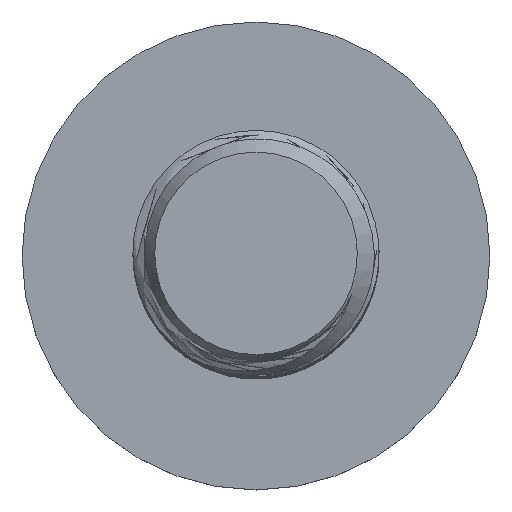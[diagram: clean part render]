
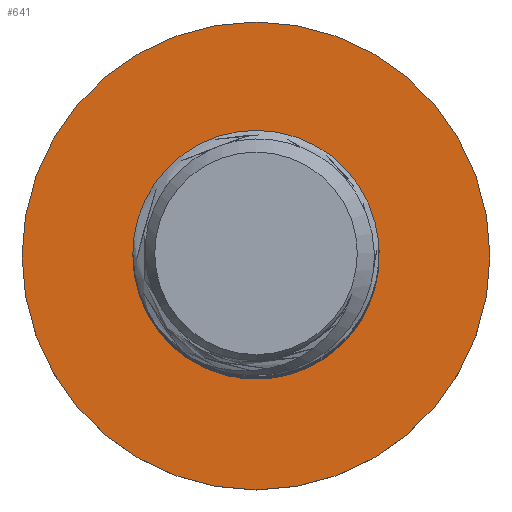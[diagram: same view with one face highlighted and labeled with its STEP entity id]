
A CAD part, top view. The second image highlights one B-rep face of the part: STEP entity #641.
In plain terms, the highlighted planar face has unit normal (0, 0, 1).
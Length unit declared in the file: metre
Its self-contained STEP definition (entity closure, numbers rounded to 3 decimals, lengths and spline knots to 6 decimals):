
#149=PLANE('',#674);
#281=ORIENTED_EDGE('',*,*,#432,.T.);
#282=ORIENTED_EDGE('',*,*,#472,.T.);
#283=ORIENTED_EDGE('',*,*,#471,.F.);
#432=EDGE_CURVE('',#494,#490,#574,.T.);
#471=EDGE_CURVE('',#570,#570,#575,.T.);
#472=EDGE_CURVE('',#490,#494,#576,.T.);
#490=VERTEX_POINT('',#797);
#494=VERTEX_POINT('',#2233);
#570=VERTEX_POINT('',#4189);
#574=CIRCLE('',#670,0.0025);
#575=CIRCLE('',#673,0.00475);
#576=CIRCLE('',#675,0.0025);
#596=EDGE_LOOP('',(#281,#282));
#597=EDGE_LOOP('',(#283));
#619=FACE_BOUND('',#596,.T.);
#620=FACE_BOUND('',#597,.T.);
#641=ADVANCED_FACE('',(#619,#620),#149,.F.);
#670=AXIS2_PLACEMENT_3D('',#2756,#729,#730);
#673=AXIS2_PLACEMENT_3D('',#4188,#735,#736);
#674=AXIS2_PLACEMENT_3D('',#4190,#737,#738);
#675=AXIS2_PLACEMENT_3D('',#4191,#739,#740);
#729=DIRECTION('',(0.,0.,-1.));
#730=DIRECTION('',(1.,0.,0.));
#735=DIRECTION('',(0.,0.,-1.));
#736=DIRECTION('',(1.,0.,0.));
#737=DIRECTION('',(0.,0.,-1.));
#738=DIRECTION('',(0.,-1.,0.));
#739=DIRECTION('',(0.,0.,-1.));
#740=DIRECTION('',(1.,0.,0.));
#797=CARTESIAN_POINT('',(-0.008298,-0.024952,-0.241597));
#2233=CARTESIAN_POINT('',(-0.003353,-0.024428,-0.241597));
#2756=CARTESIAN_POINT('',(-0.005798,-0.024952,-0.241597));
#4188=CARTESIAN_POINT('',(-0.005798,-0.024952,-0.241597));
#4189=CARTESIAN_POINT('',(-0.001048,-0.024952,-0.241597));
#4190=CARTESIAN_POINT('',(-0.008298,-0.024952,-0.241597));
#4191=CARTESIAN_POINT('',(-0.005798,-0.024952,-0.241597));
